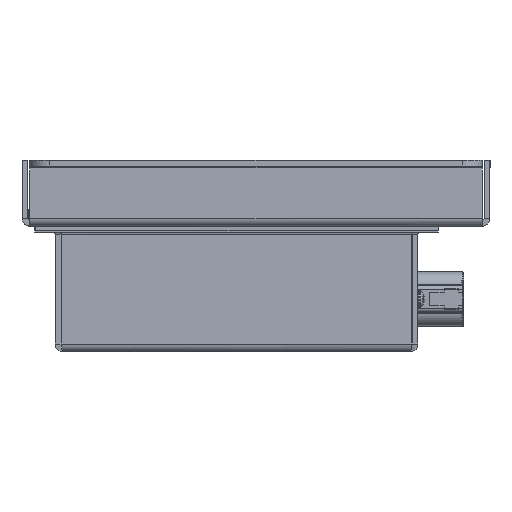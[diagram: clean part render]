
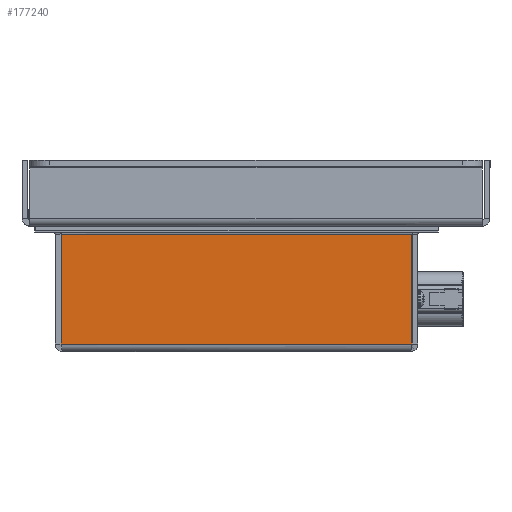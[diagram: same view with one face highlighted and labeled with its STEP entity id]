
A CAD part, left-side view. The second image highlights one B-rep face of the part: STEP entity #177240.
In plain terms, the highlighted planar face has unit normal (-1, 0, 0) as drawn and (1, 0, 0) by its records, which use the part's own axes.
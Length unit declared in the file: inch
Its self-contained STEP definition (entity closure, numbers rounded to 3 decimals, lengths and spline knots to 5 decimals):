
#4035 = EDGE_CURVE ( 'NONE', #134476, #86759, #96147, .T. ) ;
#9540 = VECTOR ( 'NONE', #209926, 39.37008 ) ;
#13338 = CARTESIAN_POINT ( 'NONE',  ( 5.75, 3.28231, 0.12 ) ) ;
#24862 = EDGE_CURVE ( 'NONE', #134476, #47710, #219145, .T. ) ;
#32628 = CARTESIAN_POINT ( 'NONE',  ( 5.75, 3.28231, 1.7825 ) ) ;
#34789 = PLANE ( 'NONE',  #128585 ) ;
#47710 = VERTEX_POINT ( 'NONE', #56839 ) ;
#50325 = LINE ( 'NONE', #223414, #136626 ) ;
#54766 = CARTESIAN_POINT ( 'NONE',  ( 5.75, -2.01355, 0.12 ) ) ;
#55334 = LINE ( 'NONE', #54766, #9540 ) ;
#56839 = CARTESIAN_POINT ( 'NONE',  ( 5.75, -2.01355, 0.12 ) ) ;
#61903 = CARTESIAN_POINT ( 'NONE',  ( 5.75, -2.01355, 1.7825 ) ) ;
#86728 = DIRECTION ( 'NONE',  ( 0., 1., 0. ) ) ;
#86759 = VERTEX_POINT ( 'NONE', #32628 ) ;
#92281 = CARTESIAN_POINT ( 'NONE',  ( 5.75, 59.55938, 0.12 ) ) ;
#96147 = LINE ( 'NONE', #13338, #136643 ) ;
#128585 = AXIS2_PLACEMENT_3D ( 'NONE', #155389, #190020, #86728 ) ;
#131182 = ORIENTED_EDGE ( 'NONE', *, *, #4035, .T. ) ;
#134476 = VERTEX_POINT ( 'NONE', #206216 ) ;
#136626 = VECTOR ( 'NONE', #206153, 39.37008 ) ;
#136643 = VECTOR ( 'NONE', #219692, 39.37008 ) ;
#137652 = ORIENTED_EDGE ( 'NONE', *, *, #223470, .T. ) ;
#155389 = CARTESIAN_POINT ( 'NONE',  ( 5.75, 59.55938, 0.12 ) ) ;
#173459 = VECTOR ( 'NONE', #196247, 39.37008 ) ;
#177240 = ADVANCED_FACE ( 'NONE', ( #182865 ), #34789, .T. ) ;
#182865 = FACE_OUTER_BOUND ( 'NONE', #197401, .T. ) ;
#190020 = DIRECTION ( 'NONE',  ( 1., 0., 0. ) ) ;
#194533 = ORIENTED_EDGE ( 'NONE', *, *, #24862, .F. ) ;
#196247 = DIRECTION ( 'NONE',  ( 0., -1., 0. ) ) ;
#197401 = EDGE_LOOP ( 'NONE', ( #137652, #194533, #131182, #200475 ) ) ;
#200475 = ORIENTED_EDGE ( 'NONE', *, *, #219482, .T. ) ;
#203411 = VERTEX_POINT ( 'NONE', #61903 ) ;
#206153 = DIRECTION ( 'NONE',  ( 0., -1., 0. ) ) ;
#206216 = CARTESIAN_POINT ( 'NONE',  ( 5.75, 3.28231, 0.12 ) ) ;
#209926 = DIRECTION ( 'NONE',  ( 0., 0., -1. ) ) ;
#219145 = LINE ( 'NONE', #92281, #173459 ) ;
#219482 = EDGE_CURVE ( 'NONE', #86759, #203411, #50325, .T. ) ;
#219692 = DIRECTION ( 'NONE',  ( 0., 0., 1. ) ) ;
#223414 = CARTESIAN_POINT ( 'NONE',  ( 5.75, 59.55938, 1.7825 ) ) ;
#223470 = EDGE_CURVE ( 'NONE', #203411, #47710, #55334, .T. ) ;
